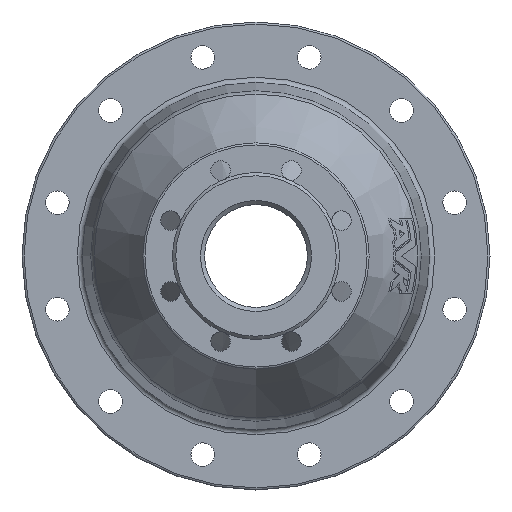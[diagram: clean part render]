
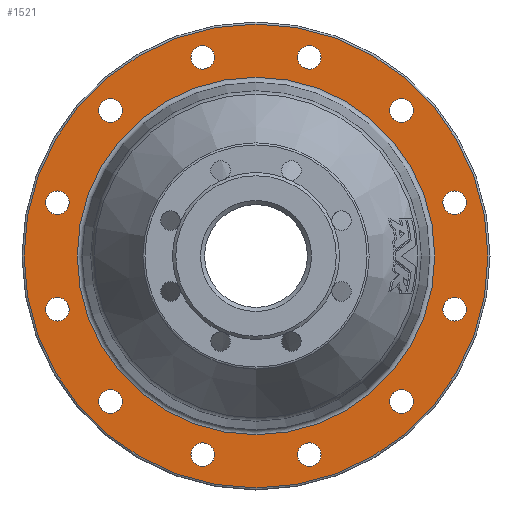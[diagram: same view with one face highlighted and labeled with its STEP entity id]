
A CAD part, left-side view. The second image highlights one B-rep face of the part: STEP entity #1521.
In plain terms, the highlighted planar face has unit normal (-1, 0, 0).
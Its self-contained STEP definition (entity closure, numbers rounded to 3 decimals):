
#5 = EDGE_CURVE ( 'NONE', #1976, #1976, #1510, .T. ) ;
#16 = FACE_BOUND ( 'NONE', #1579, .T. ) ;
#24 = EDGE_CURVE ( 'NONE', #2968, #2968, #692, .T. ) ;
#46 = FACE_BOUND ( 'NONE', #1389, .T. ) ;
#48 = CARTESIAN_POINT ( 'NONE',  ( 125.5, -51.764, -181.685 ) ) ;
#77 = EDGE_LOOP ( 'NONE', ( #1037 ) ) ;
#99 = VERTEX_POINT ( 'NONE', #1593 ) ;
#146 = EDGE_LOOP ( 'NONE', ( #589 ) ) ;
#198 = EDGE_CURVE ( 'NONE', #372, #372, #2184, .T. ) ;
#205 = FACE_BOUND ( 'NONE', #625, .T. ) ;
#207 = AXIS2_PLACEMENT_3D ( 'NONE', #822, #1563, #2350 ) ;
#248 = DIRECTION ( 'NONE',  ( 1., 0., 0. ) ) ;
#301 = FACE_BOUND ( 'NONE', #746, .T. ) ;
#317 = EDGE_CURVE ( 'NONE', #2016, #2016, #1870, .T. ) ;
#323 = CARTESIAN_POINT ( 'NONE',  ( 125.5, 193.185, -51.764 ) ) ;
#337 = VERTEX_POINT ( 'NONE', #2005 ) ;
#372 = VERTEX_POINT ( 'NONE', #2248 ) ;
#445 = DIRECTION ( 'NONE',  ( 1., 0., 0. ) ) ;
#470 = EDGE_CURVE ( 'NONE', #1286, #1286, #1844, .T. ) ;
#512 = DIRECTION ( 'NONE',  ( -1., 0., 0. ) ) ;
#556 = AXIS2_PLACEMENT_3D ( 'NONE', #1215, #248, #742 ) ;
#560 = VERTEX_POINT ( 'NONE', #2544 ) ;
#571 = DIRECTION ( 'NONE',  ( 0., 0., 1. ) ) ;
#589 = ORIENTED_EDGE ( 'NONE', *, *, #738, .T. ) ;
#604 = AXIS2_PLACEMENT_3D ( 'NONE', #323, #1300, #2283 ) ;
#623 = EDGE_LOOP ( 'NONE', ( #2222 ) ) ;
#625 = EDGE_LOOP ( 'NONE', ( #1797 ) ) ;
#692 = CIRCLE ( 'NONE', #1257, 11.5 ) ;
#705 = DIRECTION ( 'NONE',  ( 0., 0., 1. ) ) ;
#718 = CARTESIAN_POINT ( 'NONE',  ( 125.5, -141.421, -141.421 ) ) ;
#719 = CARTESIAN_POINT ( 'NONE',  ( 125.5, -51.764, -193.185 ) ) ;
#738 = EDGE_CURVE ( 'NONE', #560, #560, #1638, .T. ) ;
#742 = DIRECTION ( 'NONE',  ( 0., 0., 1. ) ) ;
#746 = EDGE_LOOP ( 'NONE', ( #855 ) ) ;
#748 = EDGE_CURVE ( 'NONE', #3054, #3054, #2036, .T. ) ;
#756 = CARTESIAN_POINT ( 'NONE',  ( 125.5, 51.764, 204.685 ) ) ;
#758 = ORIENTED_EDGE ( 'NONE', *, *, #748, .T. ) ;
#792 = AXIS2_PLACEMENT_3D ( 'NONE', #1240, #1506, #2216 ) ;
#802 = VERTEX_POINT ( 'NONE', #2282 ) ;
#822 = CARTESIAN_POINT ( 'NONE',  ( 125.5, -193.185, -51.764 ) ) ;
#855 = ORIENTED_EDGE ( 'NONE', *, *, #1369, .T. ) ;
#856 = CARTESIAN_POINT ( 'NONE',  ( 125.5, 0., 225.5 ) ) ;
#877 = AXIS2_PLACEMENT_3D ( 'NONE', #718, #2475, #705 ) ;
#921 = DIRECTION ( 'NONE',  ( 0., 0., 1. ) ) ;
#929 = DIRECTION ( 'NONE',  ( 1., 0., 0. ) ) ;
#971 = CARTESIAN_POINT ( 'NONE',  ( 125.5, 0., 173.767 ) ) ;
#1000 = FACE_BOUND ( 'NONE', #2419, .T. ) ;
#1012 = FACE_BOUND ( 'NONE', #2383, .T. ) ;
#1028 = FACE_OUTER_BOUND ( 'NONE', #77, .T. ) ;
#1037 = ORIENTED_EDGE ( 'NONE', *, *, #317, .T. ) ;
#1061 = VERTEX_POINT ( 'NONE', #2561 ) ;
#1062 = EDGE_LOOP ( 'NONE', ( #2839 ) ) ;
#1072 = EDGE_CURVE ( 'NONE', #1559, #1559, #2679, .T. ) ;
#1087 = DIRECTION ( 'NONE',  ( 0., 0., 1. ) ) ;
#1116 = VERTEX_POINT ( 'NONE', #2650 ) ;
#1126 = AXIS2_PLACEMENT_3D ( 'NONE', #2847, #929, #3140 ) ;
#1142 = AXIS2_PLACEMENT_3D ( 'NONE', #1440, #3162, #1189 ) ;
#1151 = CARTESIAN_POINT ( 'NONE',  ( 125.5, 51.764, 193.185 ) ) ;
#1162 = CARTESIAN_POINT ( 'NONE',  ( 125.5, 0., 0. ) ) ;
#1189 = DIRECTION ( 'NONE',  ( 0., 0., 1. ) ) ;
#1206 = DIRECTION ( 'NONE',  ( 1., 0., 0. ) ) ;
#1215 = CARTESIAN_POINT ( 'NONE',  ( 125.5, 51.764, -193.185 ) ) ;
#1240 = CARTESIAN_POINT ( 'NONE',  ( 125.5, -193.185, 51.764 ) ) ;
#1243 = CARTESIAN_POINT ( 'NONE',  ( 125.5, 141.421, 141.421 ) ) ;
#1257 = AXIS2_PLACEMENT_3D ( 'NONE', #1151, #1918, #1820 ) ;
#1286 = VERTEX_POINT ( 'NONE', #48 ) ;
#1288 = EDGE_LOOP ( 'NONE', ( #2933 ) ) ;
#1299 = CARTESIAN_POINT ( 'NONE',  ( 125.5, 193.185, -40.264 ) ) ;
#1300 = DIRECTION ( 'NONE',  ( 1., 0., 0. ) ) ;
#1307 = EDGE_CURVE ( 'NONE', #337, #337, #1477, .T. ) ;
#1369 = EDGE_CURVE ( 'NONE', #802, #802, #2458, .T. ) ;
#1377 = CIRCLE ( 'NONE', #2767, 11.5 ) ;
#1386 = DIRECTION ( 'NONE',  ( 0., 0., 1. ) ) ;
#1389 = EDGE_LOOP ( 'NONE', ( #2262 ) ) ;
#1440 = CARTESIAN_POINT ( 'NONE',  ( 125.5, 141.421, -141.421 ) ) ;
#1458 = DIRECTION ( 'NONE',  ( 0., 0., 1. ) ) ;
#1477 = CIRCLE ( 'NONE', #1690, 11.5 ) ;
#1494 = FACE_BOUND ( 'NONE', #1993, .T. ) ;
#1506 = DIRECTION ( 'NONE',  ( 1., 0., 0. ) ) ;
#1510 = CIRCLE ( 'NONE', #2803, 173.767 ) ;
#1521 = ADVANCED_FACE ( 'NONE', ( #1000, #46, #2900, #1494, #3002, #2004, #1028, #1012, #1523, #2481, #301, #2914, #16, #205 ), #2235, .T. ) ;
#1523 = FACE_BOUND ( 'NONE', #1062, .T. ) ;
#1559 = VERTEX_POINT ( 'NONE', #3004 ) ;
#1561 = EDGE_CURVE ( 'NONE', #1061, #1061, #1377, .T. ) ;
#1563 = DIRECTION ( 'NONE',  ( 1., 0., 0. ) ) ;
#1579 = EDGE_LOOP ( 'NONE', ( #3103 ) ) ;
#1593 = CARTESIAN_POINT ( 'NONE',  ( 125.5, 193.185, 63.264 ) ) ;
#1638 = CIRCLE ( 'NONE', #207, 11.5 ) ;
#1690 = AXIS2_PLACEMENT_3D ( 'NONE', #2758, #2497, #1087 ) ;
#1723 = AXIS2_PLACEMENT_3D ( 'NONE', #1162, #3116, #921 ) ;
#1747 = EDGE_LOOP ( 'NONE', ( #1924 ) ) ;
#1753 = DIRECTION ( 'NONE',  ( 0., 0., 1. ) ) ;
#1766 = CARTESIAN_POINT ( 'NONE',  ( 125.5, -141.421, -129.921 ) ) ;
#1797 = ORIENTED_EDGE ( 'NONE', *, *, #2745, .T. ) ;
#1820 = DIRECTION ( 'NONE',  ( 0., 0., 1. ) ) ;
#1844 = CIRCLE ( 'NONE', #1990, 11.5 ) ;
#1870 = CIRCLE ( 'NONE', #1723, 225.5 ) ;
#1918 = DIRECTION ( 'NONE',  ( 1., 0., 0. ) ) ;
#1924 = ORIENTED_EDGE ( 'NONE', *, *, #1307, .T. ) ;
#1975 = CARTESIAN_POINT ( 'NONE',  ( 125.5, 0., 0. ) ) ;
#1976 = VERTEX_POINT ( 'NONE', #971 ) ;
#1990 = AXIS2_PLACEMENT_3D ( 'NONE', #719, #1206, #1458 ) ;
#1993 = EDGE_LOOP ( 'NONE', ( #2548 ) ) ;
#2004 = FACE_BOUND ( 'NONE', #1288, .T. ) ;
#2005 = CARTESIAN_POINT ( 'NONE',  ( 125.5, -51.764, 204.685 ) ) ;
#2016 = VERTEX_POINT ( 'NONE', #856 ) ;
#2036 = CIRCLE ( 'NONE', #604, 11.5 ) ;
#2048 = CIRCLE ( 'NONE', #877, 11.5 ) ;
#2081 = DIRECTION ( 'NONE',  ( 1., 0., 0. ) ) ;
#2086 = EDGE_CURVE ( 'NONE', #99, #99, #2940, .T. ) ;
#2184 = CIRCLE ( 'NONE', #792, 11.5 ) ;
#2216 = DIRECTION ( 'NONE',  ( 0., 0., 1. ) ) ;
#2222 = ORIENTED_EDGE ( 'NONE', *, *, #24, .T. ) ;
#2233 = ORIENTED_EDGE ( 'NONE', *, *, #5, .F. ) ;
#2235 = PLANE ( 'NONE',  #2720 ) ;
#2248 = CARTESIAN_POINT ( 'NONE',  ( 125.5, -193.185, 63.264 ) ) ;
#2262 = ORIENTED_EDGE ( 'NONE', *, *, #1561, .T. ) ;
#2282 = CARTESIAN_POINT ( 'NONE',  ( 125.5, -141.421, 152.921 ) ) ;
#2283 = DIRECTION ( 'NONE',  ( 0., 0., 1. ) ) ;
#2311 = EDGE_CURVE ( 'NONE', #2755, #2755, #2048, .T. ) ;
#2350 = DIRECTION ( 'NONE',  ( 0., 0., 1. ) ) ;
#2383 = EDGE_LOOP ( 'NONE', ( #2233 ) ) ;
#2419 = EDGE_LOOP ( 'NONE', ( #758 ) ) ;
#2423 = DIRECTION ( 'NONE',  ( -1., 0., 0. ) ) ;
#2458 = CIRCLE ( 'NONE', #1126, 11.5 ) ;
#2475 = DIRECTION ( 'NONE',  ( 1., 0., 0. ) ) ;
#2481 = FACE_BOUND ( 'NONE', #146, .T. ) ;
#2497 = DIRECTION ( 'NONE',  ( 1., 0., 0. ) ) ;
#2509 = DIRECTION ( 'NONE',  ( 0., 0., 1. ) ) ;
#2544 = CARTESIAN_POINT ( 'NONE',  ( 125.5, -193.185, -40.264 ) ) ;
#2548 = ORIENTED_EDGE ( 'NONE', *, *, #198, .T. ) ;
#2561 = CARTESIAN_POINT ( 'NONE',  ( 125.5, 141.421, 152.921 ) ) ;
#2650 = CARTESIAN_POINT ( 'NONE',  ( 125.5, 141.421, -129.921 ) ) ;
#2679 = CIRCLE ( 'NONE', #556, 11.5 ) ;
#2720 = AXIS2_PLACEMENT_3D ( 'NONE', #1975, #512, #2509 ) ;
#2745 = EDGE_CURVE ( 'NONE', #1116, #1116, #3155, .T. ) ;
#2755 = VERTEX_POINT ( 'NONE', #1766 ) ;
#2758 = CARTESIAN_POINT ( 'NONE',  ( 125.5, -51.764, 193.185 ) ) ;
#2767 = AXIS2_PLACEMENT_3D ( 'NONE', #1243, #445, #1753 ) ;
#2803 = AXIS2_PLACEMENT_3D ( 'NONE', #3169, #2423, #1386 ) ;
#2820 = ORIENTED_EDGE ( 'NONE', *, *, #2311, .T. ) ;
#2839 = ORIENTED_EDGE ( 'NONE', *, *, #470, .T. ) ;
#2847 = CARTESIAN_POINT ( 'NONE',  ( 125.5, -141.421, 141.421 ) ) ;
#2900 = FACE_BOUND ( 'NONE', #1747, .T. ) ;
#2914 = FACE_BOUND ( 'NONE', #623, .T. ) ;
#2933 = ORIENTED_EDGE ( 'NONE', *, *, #1072, .T. ) ;
#2940 = CIRCLE ( 'NONE', #2941, 11.5 ) ;
#2941 = AXIS2_PLACEMENT_3D ( 'NONE', #3077, #2081, #571 ) ;
#2963 = EDGE_LOOP ( 'NONE', ( #2820 ) ) ;
#2968 = VERTEX_POINT ( 'NONE', #756 ) ;
#3002 = FACE_BOUND ( 'NONE', #2963, .T. ) ;
#3004 = CARTESIAN_POINT ( 'NONE',  ( 125.5, 51.764, -181.685 ) ) ;
#3054 = VERTEX_POINT ( 'NONE', #1299 ) ;
#3077 = CARTESIAN_POINT ( 'NONE',  ( 125.5, 193.185, 51.764 ) ) ;
#3103 = ORIENTED_EDGE ( 'NONE', *, *, #2086, .T. ) ;
#3116 = DIRECTION ( 'NONE',  ( -1., 0., 0. ) ) ;
#3140 = DIRECTION ( 'NONE',  ( 0., 0., 1. ) ) ;
#3155 = CIRCLE ( 'NONE', #1142, 11.5 ) ;
#3162 = DIRECTION ( 'NONE',  ( 1., 0., 0. ) ) ;
#3169 = CARTESIAN_POINT ( 'NONE',  ( 125.5, 0., 0. ) ) ;
